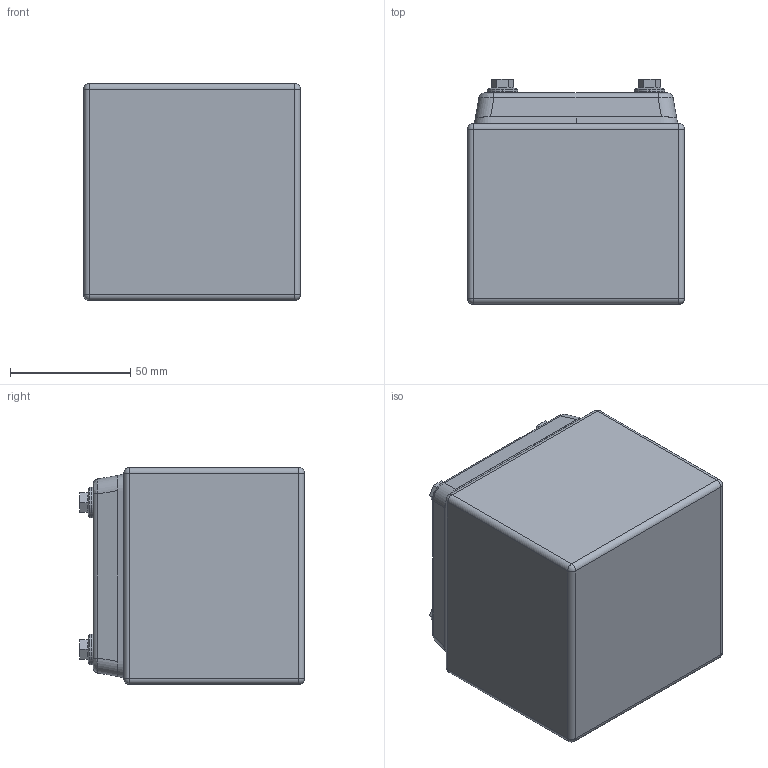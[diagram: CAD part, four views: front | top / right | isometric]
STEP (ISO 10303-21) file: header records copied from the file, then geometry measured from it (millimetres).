
FILE_DESCRIPTION (( 'STEP AP203' ), '1' );
FILE_NAME ('PEH01-316A.STEP', '2021-02-23T15:21:22', ( '' ), ( '' ), 'SwSTEP 2.0', 'SolidWorks 2020', '' );
FILE_SCHEMA (( 'CONFIG_CONTROL_DESIGN' ));
Length unit declared in the file: millimetre
Products named in the file (1): PEH01-316A
Bounding box: 90 x 93.3 x 90 mm (x, y, z)
Volume: 79775.7 mm3; surface area: 106665.4 mm2
Topology: 9 solids, 9 shells, 386 faces, 952 edges, 608 vertices
Faces by surface type: plane 202, cylinder 123, bspline 27, cone 18, sphere 16
Entity records: 13603 total; most frequent: CARTESIAN_POINT 4370, DIRECTION 1903, ORIENTED_EDGE 1872, EDGE_CURVE 936, AXIS2_PLACEMENT_3D 669, VERTEX_POINT 608, VECTOR 565, LINE 565
